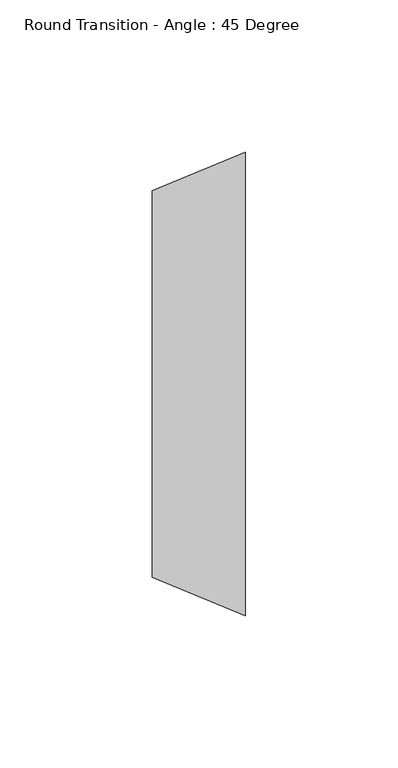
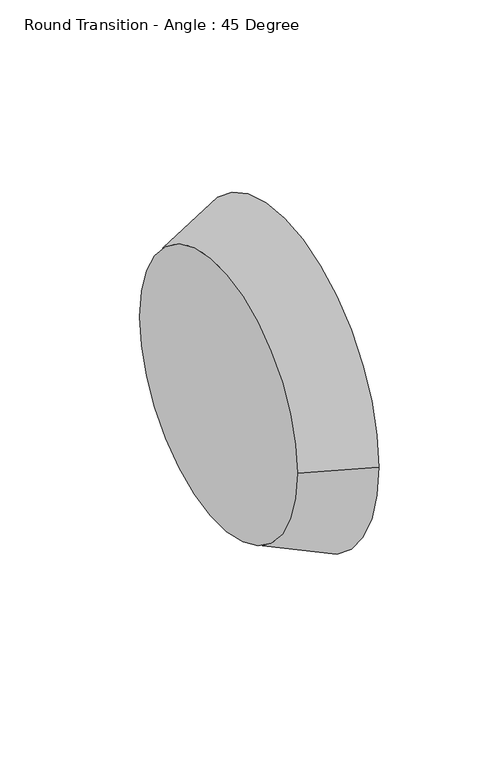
"""IFC4 building model written with IfcOpenShell, lengths in millimetres: duct fitting geometry, Round Transition - Angle : 45 Degree."""

from ifc_helpers import new_model, si_unit, frame, origin, place, context, project, spatial, polyline, circle_curve, source, transform, mapped, element, save
from ifc_brep_helpers import plane_surface, revolved_surface, advanced_brep


def round_transition_angle_45_degree_f2e0231c(model_context):
    return source(origin(), model_context, "Body", "AdvancedBrep", [
        advanced_brep(
        [(30.6605122, -76.2, 0.0), (30.6605122, 76.2, 0.0), (0.0, -63.5, 0.0), (0.0, 63.5, 0.0)],
        [
            (0, 1, circle_curve(frame((30.6605122, 0.0, 0.0), z_axis=(1.0, 0.0, 0.0), x_axis=(0.0, -1.0, 0.0)), 76.2)),
            (1, 0, circle_curve(frame((30.6605122, 0.0, 0.0), z_axis=(1.0, 0.0, 0.0), x_axis=(0.0, 1.0, 0.0)), 76.2)),
            (2, 3, circle_curve(frame((0.0, 0.0, 0.0), z_axis=(-1.0, 0.0, 0.0), x_axis=(0.0, 1.0, 0.0)), 63.5)),
            (3, 2, circle_curve(frame((0.0, 0.0, 0.0), z_axis=(-1.0, 0.0, 0.0), x_axis=(0.0, -1.0, 0.0)), 63.5)),
            (3, 1),
            (0, 2),
        ],
        [
            plane_surface(frame((30.6605122, 0.0, 0.0), z_axis=(1.0, 0.0, 0.0), x_axis=(0.0, 0.0, -1.0))),
            plane_surface(frame((0.0, 0.0, 0.0), z_axis=(-1.0, 0.0, 0.0), x_axis=(0.0, 0.0, -1.0))),
            revolved_surface(polyline([(0.0, 63.50000001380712, 0.0), (30.6605122, 76.2, 0.0)]), (-153.3025612, 0.0, 0.0), (1.0, 0.0, 0.0)),
            revolved_surface(polyline([(0.0, -63.50000001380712, 0.0), (30.6605122, -76.2, 0.0)]), (-153.3025612, 0.0, 0.0), (1.0, 0.0, 0.0)),
        ],
        [
            (0, [[1, 2]]),
            (1, [[3, 4]]),
            (2, [[-4, 5, -1, 6]]),
            (3, [[-3, -6, -2, -5]]),
        ],
    ),
    ])


if __name__ == "__main__":
    model = new_model("IFC4")
    model_context = context("Model", 3, world=origin())
    ifc_project = project(units=[si_unit("LENGTHUNIT", "METRE", prefix="MILLI")], contexts=[model_context])
    site = spatial("IfcSite", under=ifc_project)
    building = spatial("IfcBuilding", under=site)
    placement = place(None, origin())
    round_transition_angle_45_degree_shape = round_transition_angle_45_degree_f2e0231c(model_context)
    element("IfcDuctFitting", 1, ObjectType="Round Transition - Angle : 45 Degree", at=placement, inside=building, context=model_context, shape_type="MappedRepresentation", body=[
        mapped(round_transition_angle_45_degree_shape, transform((0.0, 0.0, 0.0), x_axis=(1.0, 0.0, 0.0), y_axis=(0.0, 1.0, 0.0), z_axis=(0.0, 0.0, 1.0))),
    ])
    save(model, "model.ifc")
